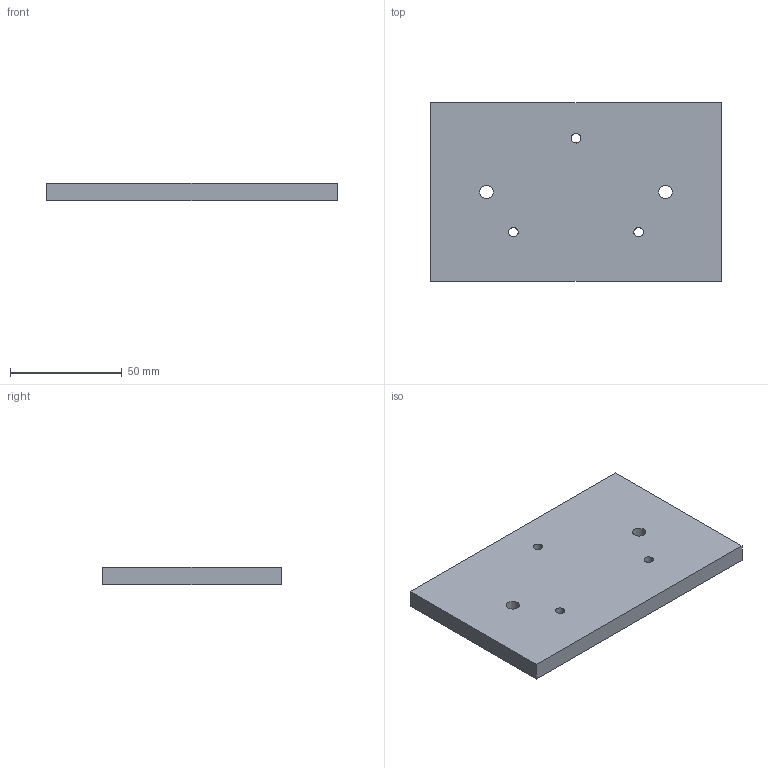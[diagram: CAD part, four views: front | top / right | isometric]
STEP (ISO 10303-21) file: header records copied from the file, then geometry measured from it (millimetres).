
FILE_DESCRIPTION(('Open CASCADE Model'),'2;1');
FILE_NAME('Open CASCADE Shape Model','2026-10-28T05:16:20',('Author'),( 'Open CASCADE'),'Open CASCADE STEP processor 7.8','Open CASCADE 7.8' ,'Unknown');
FILE_SCHEMA(('AUTOMOTIVE_DESIGN { 1 0 10303 214 1 1 1 1 }'));
Length unit declared in the file: millimetre
Products named in the file (1): Open CASCADE STEP translator 7.8 35
Bounding box: 130 x 80 x 8 mm (x, y, z)
Volume: 82410.6 mm3; surface area: 24582.4 mm2
Topology: 1 solids, 1 shells, 11 faces, 27 edges, 18 vertices
Faces by surface type: plane 6, cylinder 5
Full cylindrical faces by diameter (mm): 4.2 x3, 6.03 x2
Entity records: 712 total; most frequent: DIRECTION 115, CARTESIAN_POINT 111, LINE 61, VECTOR 61, ORIENTED_EDGE 54, PCURVE 54, DEFINITIONAL_REPRESENTATION 54, EDGE_CURVE 27
